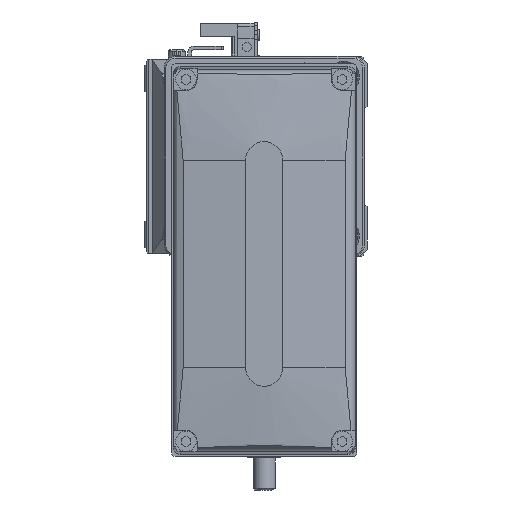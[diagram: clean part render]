
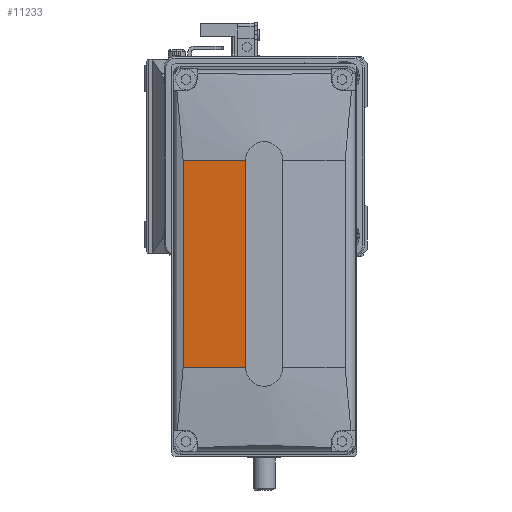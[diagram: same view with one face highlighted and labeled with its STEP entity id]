
A CAD part, left-side view. The second image highlights one B-rep face of the part: STEP entity #11233.
In plain terms, the highlighted planar face has unit normal (-0.996, 0.087, 0) as drawn and (-0.996, 0, -0.087) by its records, which use the part's own axes.
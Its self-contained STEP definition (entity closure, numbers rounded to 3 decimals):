
#2060 = DIRECTION ( 'NONE',  ( 0., 1., 0. ) ) ;
#3114 = DIRECTION ( 'NONE',  ( -0.087, 0., 0.996 ) ) ;
#3828 = CARTESIAN_POINT ( 'NONE',  ( 43606.406, -28., -499000. ) ) ;
#5737 = PLANE ( 'NONE',  #32439 ) ;
#6182 = DIRECTION ( 'NONE',  ( -0.087, 0., 0.996 ) ) ;
#6560 = VECTOR ( 'NONE', #6182, 1000. ) ;
#7004 = VERTEX_POINT ( 'NONE', #30169 ) ;
#7054 = EDGE_LOOP ( 'NONE', ( #14694, #35774, #29609, #23705 ) ) ;
#8797 = CARTESIAN_POINT ( 'NONE',  ( -50., 128., -5. ) ) ;
#10429 = EDGE_CURVE ( 'NONE', #31402, #13652, #14291, .T. ) ;
#11233 = ADVANCED_FACE ( 'NONE', ( #13733 ), #5737, .T. ) ;
#11625 = VERTEX_POINT ( 'NONE', #25275 ) ;
#11913 = VECTOR ( 'NONE', #2060, 1000. ) ;
#12588 = CARTESIAN_POINT ( 'NONE',  ( -50., -28., -5. ) ) ;
#13652 = VERTEX_POINT ( 'NONE', #38462 ) ;
#13733 = FACE_OUTER_BOUND ( 'NONE', #7054, .T. ) ;
#14291 = LINE ( 'NONE', #3828, #18951 ) ;
#14694 = ORIENTED_EDGE ( 'NONE', *, *, #21621, .F. ) ;
#15080 = LINE ( 'NONE', #24099, #6560 ) ;
#18818 = VECTOR ( 'NONE', #25423, 1000. ) ;
#18939 = DIRECTION ( 'NONE',  ( 0.087, 0., -0.996 ) ) ;
#18951 = VECTOR ( 'NONE', #18939, 1000. ) ;
#20810 = DIRECTION ( 'NONE',  ( -0.996, 0., -0.087 ) ) ;
#21201 = EDGE_CURVE ( 'NONE', #31402, #7004, #33729, .T. ) ;
#21621 = EDGE_CURVE ( 'NONE', #11625, #7004, #15080, .T. ) ;
#22966 = CARTESIAN_POINT ( 'NONE',  ( -50., 128., -5. ) ) ;
#23705 = ORIENTED_EDGE ( 'NONE', *, *, #21201, .T. ) ;
#24099 = CARTESIAN_POINT ( 'NONE',  ( 43606.406, 28., -499000. ) ) ;
#25275 = CARTESIAN_POINT ( 'NONE',  ( -48.525, 28., -21.861 ) ) ;
#25423 = DIRECTION ( 'NONE',  ( 0., 1., 0. ) ) ;
#26479 = CARTESIAN_POINT ( 'NONE',  ( -48.525, 128., -21.861 ) ) ;
#29609 = ORIENTED_EDGE ( 'NONE', *, *, #10429, .F. ) ;
#30169 = CARTESIAN_POINT ( 'NONE',  ( -50., 28., -5. ) ) ;
#30368 = EDGE_CURVE ( 'NONE', #13652, #11625, #31992, .T. ) ;
#31402 = VERTEX_POINT ( 'NONE', #12588 ) ;
#31992 = LINE ( 'NONE', #26479, #11913 ) ;
#32439 = AXIS2_PLACEMENT_3D ( 'NONE', #8797, #20810, #3114 ) ;
#33729 = LINE ( 'NONE', #22966, #18818 ) ;
#35774 = ORIENTED_EDGE ( 'NONE', *, *, #30368, .F. ) ;
#38462 = CARTESIAN_POINT ( 'NONE',  ( -48.525, -28., -21.861 ) ) ;
